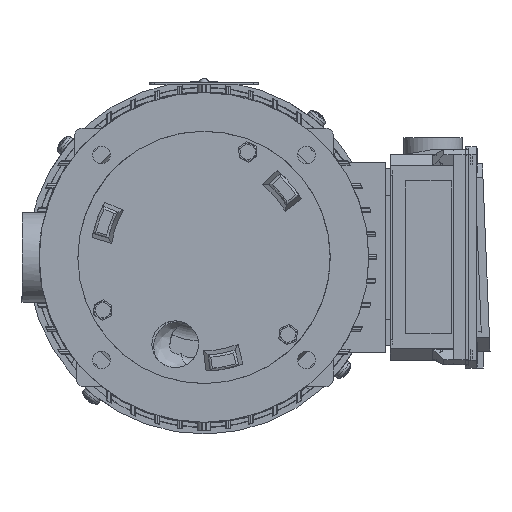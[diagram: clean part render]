
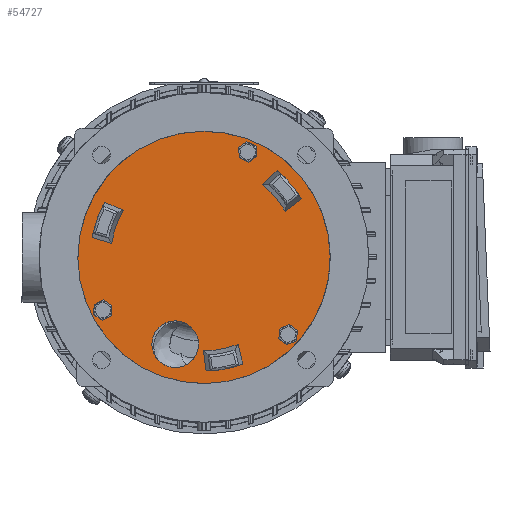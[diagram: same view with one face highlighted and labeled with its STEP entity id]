
A CAD part, front view. The second image highlights one B-rep face of the part: STEP entity #54727.
In plain terms, the highlighted planar face has unit normal (0, -1, 0).
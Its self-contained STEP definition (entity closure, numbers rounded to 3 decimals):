
#2471=PLANE('',#59322);
#3024=FACE_BOUND('',#8525,.T.);
#3025=FACE_BOUND('',#8526,.T.);
#3026=FACE_BOUND('',#8527,.T.);
#3027=FACE_BOUND('',#8528,.T.);
#3028=FACE_BOUND('',#8529,.T.);
#3029=FACE_BOUND('',#8530,.T.);
#3030=FACE_BOUND('',#8531,.T.);
#5421=FACE_OUTER_BOUND('',#8524,.T.);
#8524=EDGE_LOOP('',(#47080));
#8525=EDGE_LOOP('',(#47081,#47082));
#8526=EDGE_LOOP('',(#47083,#47084));
#8527=EDGE_LOOP('',(#47085,#47086));
#8528=EDGE_LOOP('',(#47087,#47088,#47089,#47090));
#8529=EDGE_LOOP('',(#47091,#47092,#47093,#47094));
#8530=EDGE_LOOP('',(#47095,#47096,#47097,#47098));
#8531=EDGE_LOOP('',(#47099));
#11517=CIRCLE('',#59148,0.302);
#11518=CIRCLE('',#59149,0.302);
#11532=CIRCLE('',#59182,0.302);
#11533=CIRCLE('',#59183,0.302);
#11547=CIRCLE('',#59216,0.302);
#11548=CIRCLE('',#59217,0.302);
#11563=CIRCLE('',#59245,0.925);
#11574=CIRCLE('',#59260,5.);
#11583=CIRCLE('',#59280,3.702);
#11588=CIRCLE('',#59296,4.502);
#11593=CIRCLE('',#59310,4.502);
#11594=CIRCLE('',#59314,3.702);
#11595=CIRCLE('',#59318,4.502);
#11596=CIRCLE('',#59321,3.702);
#15574=LINE('',#99007,#19895);
#15579=LINE('',#99091,#19900);
#15584=LINE('',#99182,#19905);
#15585=LINE('',#99196,#19906);
#15586=LINE('',#99201,#19907);
#15587=LINE('',#99210,#19908);
#19895=VECTOR('',#72104,1.);
#19900=VECTOR('',#72131,1.);
#19905=VECTOR('',#72164,1.);
#19906=VECTOR('',#72175,1.);
#19907=VECTOR('',#72182,1.);
#19908=VECTOR('',#72191,1.);
#24856=VERTEX_POINT('',#98350);
#24857=VERTEX_POINT('',#98351);
#24883=VERTEX_POINT('',#98462);
#24884=VERTEX_POINT('',#98463);
#24910=VERTEX_POINT('',#98574);
#24911=VERTEX_POINT('',#98575);
#24933=VERTEX_POINT('',#98780);
#24943=VERTEX_POINT('',#98888);
#24955=VERTEX_POINT('',#98995);
#24956=VERTEX_POINT('',#98999);
#24957=VERTEX_POINT('',#99005);
#24968=VERTEX_POINT('',#99088);
#24969=VERTEX_POINT('',#99090);
#24970=VERTEX_POINT('',#99096);
#24981=VERTEX_POINT('',#99179);
#24982=VERTEX_POINT('',#99181);
#24983=VERTEX_POINT('',#99187);
#24984=VERTEX_POINT('',#99192);
#24985=VERTEX_POINT('',#99200);
#24986=VERTEX_POINT('',#99206);
#32240=EDGE_CURVE('',#24856,#24857,#11517,.T.);
#32241=EDGE_CURVE('',#24857,#24856,#11518,.T.);
#32282=EDGE_CURVE('',#24883,#24884,#11532,.T.);
#32283=EDGE_CURVE('',#24884,#24883,#11533,.T.);
#32324=EDGE_CURVE('',#24910,#24911,#11547,.T.);
#32325=EDGE_CURVE('',#24911,#24910,#11548,.T.);
#32364=EDGE_CURVE('',#24933,#24933,#11563,.T.);
#32382=EDGE_CURVE('',#24943,#24943,#11574,.T.);
#32404=EDGE_CURVE('',#24956,#24955,#11583,.T.);
#32407=EDGE_CURVE('',#24955,#24957,#15574,.T.);
#32423=EDGE_CURVE('',#24969,#24968,#15579,.T.);
#32426=EDGE_CURVE('',#24968,#24970,#11588,.T.);
#32442=EDGE_CURVE('',#24982,#24981,#15584,.T.);
#32445=EDGE_CURVE('',#24981,#24983,#11593,.T.);
#32447=EDGE_CURVE('',#24983,#24984,#15585,.T.);
#32448=EDGE_CURVE('',#24984,#24982,#11594,.T.);
#32449=EDGE_CURVE('',#24985,#24956,#15586,.T.);
#32451=EDGE_CURVE('',#24957,#24985,#11595,.T.);
#32453=EDGE_CURVE('',#24970,#24986,#15587,.T.);
#32454=EDGE_CURVE('',#24986,#24969,#11596,.T.);
#47080=ORIENTED_EDGE('',*,*,#32382,.T.);
#47081=ORIENTED_EDGE('',*,*,#32240,.T.);
#47082=ORIENTED_EDGE('',*,*,#32241,.T.);
#47083=ORIENTED_EDGE('',*,*,#32282,.T.);
#47084=ORIENTED_EDGE('',*,*,#32283,.T.);
#47085=ORIENTED_EDGE('',*,*,#32324,.T.);
#47086=ORIENTED_EDGE('',*,*,#32325,.T.);
#47087=ORIENTED_EDGE('',*,*,#32447,.T.);
#47088=ORIENTED_EDGE('',*,*,#32448,.T.);
#47089=ORIENTED_EDGE('',*,*,#32442,.T.);
#47090=ORIENTED_EDGE('',*,*,#32445,.T.);
#47091=ORIENTED_EDGE('',*,*,#32449,.T.);
#47092=ORIENTED_EDGE('',*,*,#32404,.T.);
#47093=ORIENTED_EDGE('',*,*,#32407,.T.);
#47094=ORIENTED_EDGE('',*,*,#32451,.T.);
#47095=ORIENTED_EDGE('',*,*,#32453,.T.);
#47096=ORIENTED_EDGE('',*,*,#32454,.T.);
#47097=ORIENTED_EDGE('',*,*,#32423,.T.);
#47098=ORIENTED_EDGE('',*,*,#32426,.T.);
#47099=ORIENTED_EDGE('',*,*,#32364,.T.);
#54727=ADVANCED_FACE('',(#5421,#3024,#3025,#3026,#3027,#3028,#3029,#3030),
#2471,.F.);
#59148=AXIS2_PLACEMENT_3D('',#98352,#71781,#71782);
#59149=AXIS2_PLACEMENT_3D('',#98353,#71783,#71784);
#59182=AXIS2_PLACEMENT_3D('',#98464,#71864,#71865);
#59183=AXIS2_PLACEMENT_3D('',#98465,#71866,#71867);
#59216=AXIS2_PLACEMENT_3D('',#98576,#71947,#71948);
#59217=AXIS2_PLACEMENT_3D('',#98577,#71949,#71950);
#59245=AXIS2_PLACEMENT_3D('',#98782,#72021,#72022);
#59260=AXIS2_PLACEMENT_3D('',#98889,#72053,#72054);
#59280=AXIS2_PLACEMENT_3D('',#99000,#72098,#72099);
#59296=AXIS2_PLACEMENT_3D('',#99098,#72136,#72137);
#59310=AXIS2_PLACEMENT_3D('',#99189,#72169,#72170);
#59314=AXIS2_PLACEMENT_3D('',#99198,#72178,#72179);
#59318=AXIS2_PLACEMENT_3D('',#99204,#72187,#72188);
#59321=AXIS2_PLACEMENT_3D('',#99212,#72194,#72195);
#59322=AXIS2_PLACEMENT_3D('',#99213,#72196,#72197);
#71781=DIRECTION('center_axis',(0.,1.,0.));
#71782=DIRECTION('ref_axis',(0.798,0.,-0.603));
#71783=DIRECTION('center_axis',(0.,1.,0.));
#71784=DIRECTION('ref_axis',(0.798,0.,-0.603));
#71864=DIRECTION('center_axis',(0.,1.,0.));
#71865=DIRECTION('ref_axis',(-0.908,0.,0.419));
#71866=DIRECTION('center_axis',(0.,1.,0.));
#71867=DIRECTION('ref_axis',(-0.908,0.,0.419));
#71947=DIRECTION('center_axis',(0.,1.,0.));
#71948=DIRECTION('ref_axis',(0.843,0.,-0.538));
#71949=DIRECTION('center_axis',(0.,1.,0.));
#71950=DIRECTION('ref_axis',(0.843,0.,-0.538));
#72021=DIRECTION('center_axis',(0.,1.,0.));
#72022=DIRECTION('ref_axis',(-0.76,0.,-0.649));
#72053=DIRECTION('center_axis',(0.,-1.,0.));
#72054=DIRECTION('ref_axis',(-0.76,0.,-0.649));
#72098=DIRECTION('center_axis',(0.,-1.,0.));
#72099=DIRECTION('ref_axis',(0.863,0.,-0.506));
#72104=DIRECTION('',(-0.958,0.,0.287));
#72131=DIRECTION('',(0.231,0.,-0.973));
#72136=DIRECTION('center_axis',(0.,1.,0.));
#72137=DIRECTION('ref_axis',(0.018,0.,-1.));
#72164=DIRECTION('',(0.727,0.,0.686));
#72169=DIRECTION('center_axis',(0.,1.,0.));
#72170=DIRECTION('ref_axis',(0.857,0.,0.516));
#72175=DIRECTION('',(-0.792,0.,-0.611));
#72178=DIRECTION('center_axis',(0.,-1.,0.));
#72179=DIRECTION('ref_axis',(-0.87,0.,-0.494));
#72182=DIRECTION('',(0.925,0.,-0.38));
#72187=DIRECTION('center_axis',(0.,1.,0.));
#72188=DIRECTION('ref_axis',(-0.875,0.,0.484));
#72191=DIRECTION('',(-0.133,0.,0.991));
#72194=DIRECTION('center_axis',(0.,-1.,0.));
#72195=DIRECTION('ref_axis',(0.007,0.,1.));
#72196=DIRECTION('center_axis',(0.,1.,0.));
#72197=DIRECTION('ref_axis',(-0.649,0.,0.76));
#98350=CARTESIAN_POINT('',(3.577,-35.045,-3.239));
#98351=CARTESIAN_POINT('',(3.096,-35.045,-2.875));
#98352=CARTESIAN_POINT('Origin',(3.336,-35.045,-3.057));
#98353=CARTESIAN_POINT('Origin',(3.336,-35.045,-3.057));
#98462=CARTESIAN_POINT('',(1.458,-35.045,4.307));
#98463=CARTESIAN_POINT('',(2.005,-35.045,4.054));
#98464=CARTESIAN_POINT('Origin',(1.732,-35.045,4.181));
#98465=CARTESIAN_POINT('Origin',(1.732,-35.045,4.181));
#98574=CARTESIAN_POINT('',(-3.76,-35.045,-2.252));
#98575=CARTESIAN_POINT('',(-4.268,-35.045,-1.927));
#98576=CARTESIAN_POINT('Origin',(-4.014,-35.045,-2.089));
#98577=CARTESIAN_POINT('Origin',(-4.014,-35.045,-2.089));
#98780=CARTESIAN_POINT('',(-0.438,-35.045,-2.84));
#98782=CARTESIAN_POINT('Origin',(-1.141,-35.045,-3.441));
#98888=CARTESIAN_POINT('',(3.802,-35.045,3.247));
#98889=CARTESIAN_POINT('Origin',(0.,-35.045,
0.));
#98995=CARTESIAN_POINT('',(-3.66,-35.045,0.553));
#98999=CARTESIAN_POINT('',(-3.193,-35.045,1.873));
#99000=CARTESIAN_POINT('Origin',(0.,-35.045,
0.));
#99005=CARTESIAN_POINT('',(-4.433,-35.045,0.785));
#99007=CARTESIAN_POINT('',(-2.291,-35.045,0.144));
#99088=CARTESIAN_POINT('',(1.537,-35.045,-4.231));
#99090=CARTESIAN_POINT('',(1.351,-35.045,-3.446));
#99091=CARTESIAN_POINT('',(1.021,-35.045,-2.056));
#99096=CARTESIAN_POINT('',(0.082,-35.045,-4.501));
#99098=CARTESIAN_POINT('Origin',(0.,-35.045,
0.));
#99179=CARTESIAN_POINT('',(2.896,-35.045,3.446));
#99181=CARTESIAN_POINT('',(2.309,-35.045,2.893));
#99182=CARTESIAN_POINT('',(1.27,-35.045,1.912));
#99187=CARTESIAN_POINT('',(3.857,-35.045,2.321));
#99189=CARTESIAN_POINT('Origin',(0.,-35.045,
0.));
#99192=CARTESIAN_POINT('',(3.218,-35.045,1.828));
#99196=CARTESIAN_POINT('',(1.768,-35.045,0.709));
#99198=CARTESIAN_POINT('Origin',(0.,-35.045,
0.));
#99200=CARTESIAN_POINT('',(-3.939,-35.045,2.18));
#99201=CARTESIAN_POINT('',(-1.498,-35.045,1.177));
#99204=CARTESIAN_POINT('Origin',(0.,-35.045,
0.));
#99206=CARTESIAN_POINT('',(-0.026,-35.045,-3.701));
#99210=CARTESIAN_POINT('',(-0.27,-35.045,-1.885));
#99212=CARTESIAN_POINT('Origin',(0.,-35.045,
0.));
#99213=CARTESIAN_POINT('Origin',(0.,-35.045,
0.));
